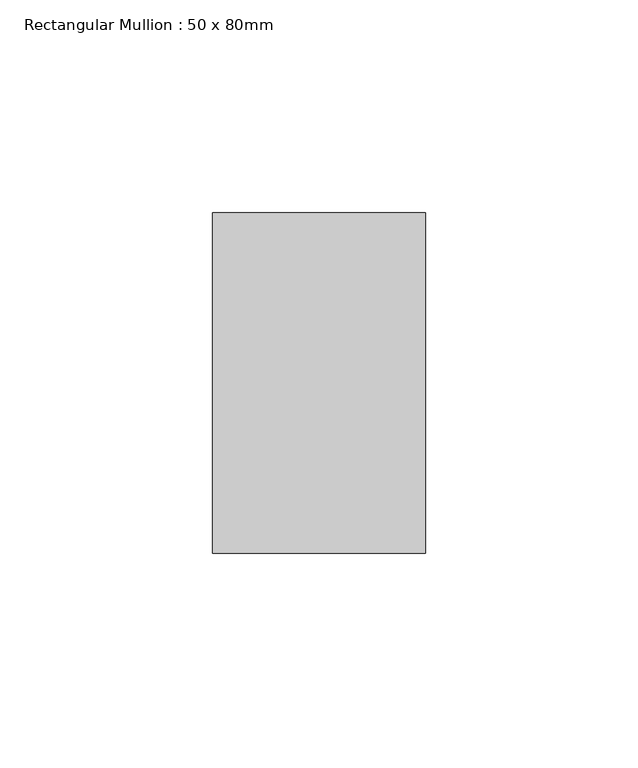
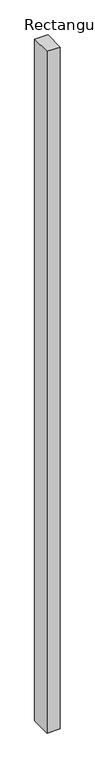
"""IFC4 building model written with IfcOpenShell, lengths in millimetres: member geometry, Rectangular Mullion : 50 x 80mm."""

from ifc_helpers import new_model, si_unit, frame, origin, place, context, project, spatial, polyline, outline, extrude, source, transform, mapped, element, save


def rectangular_mullion_50_x_80mm_6cbf759c(model_context):
    return source(origin(), model_context, "Body", "SweptSolid", [
        extrude(outline(polyline([(0.0, 25.0), (0.0, -55.0), (-50.0, -55.0), (-50.0, 25.0), (0.0, 25.0)])), frame((0.0, 0.0, -2715.0), z_axis=(0.0, 0.0, 1.0), x_axis=(1.0, 0.0, 0.0)), (0.0, 0.0, 1.0), 2715.0),
    ])


if __name__ == "__main__":
    model = new_model("IFC4")
    model_context = context("Model", 3, world=origin())
    ifc_project = project(units=[si_unit("LENGTHUNIT", "METRE", prefix="MILLI")], contexts=[model_context])
    site = spatial("IfcSite", under=ifc_project)
    building = spatial("IfcBuilding", under=site)
    placement = place(None, origin())
    rectangular_mullion_50_x_80mm_shape = rectangular_mullion_50_x_80mm_6cbf759c(model_context)
    element("IfcMember", 1, ObjectType="Rectangular Mullion : 50 x 80mm", at=placement, inside=building, context=model_context, shape_type="MappedRepresentation", body=[
        mapped(rectangular_mullion_50_x_80mm_shape, transform((0.0, 0.0, 0.0), x_axis=(1.0, 0.0, 0.0), y_axis=(0.0, 1.0, 0.0), z_axis=(0.0, 0.0, 1.0))),
    ])
    save(model, "model.ifc")
